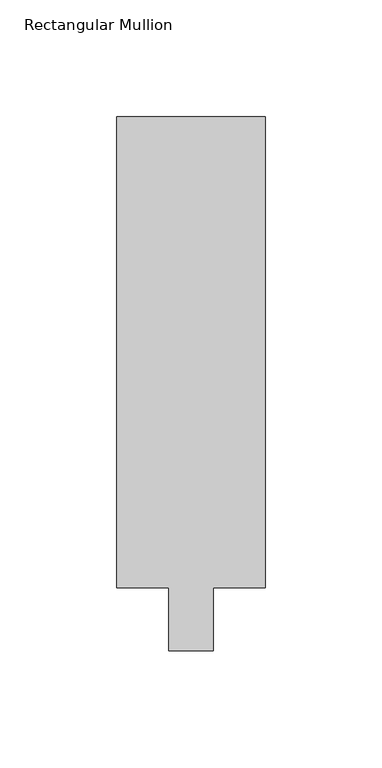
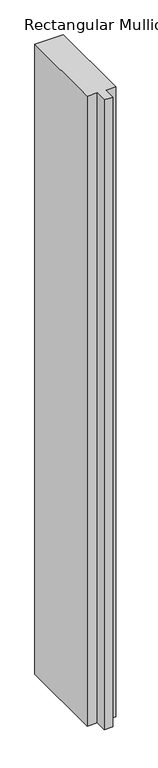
"""IFC4 building model written with IfcOpenShell, lengths in millimetres: member geometry."""

from ifc_helpers import new_model, si_unit, frame, origin, place, context, project, spatial, polyline, outline, extrude, source, transform, mapped, element, save


def rectangular_mullion_39d5cb80(model_context):
    return source(origin(), model_context, "Body", "SweptSolid", [
        extrude(outline(polyline([(0.0, 228.6), (0.0, 26.9875), (-22.225, 26.9875), (-22.225, 0.0), (-41.275, 0.0), (-41.275, 26.9875), (-63.5, 26.9875), (-63.5, 228.6), (0.0, 228.6)])), frame((0.0, 0.0, -1483.2363175), z_axis=(0.0, 0.0, 1.0), x_axis=(1.0, 0.0, 0.0)), (0.0, 0.0, 1.0), 1483.2363175),
    ])


if __name__ == "__main__":
    model = new_model("IFC4")
    model_context = context("Model", 3, world=origin())
    ifc_project = project(units=[si_unit("LENGTHUNIT", "METRE", prefix="MILLI")], contexts=[model_context])
    site = spatial("IfcSite", under=ifc_project)
    building = spatial("IfcBuilding", under=site)
    placement = place(None, origin())
    rectangular_mullion_shape = rectangular_mullion_39d5cb80(model_context)
    element("IfcMember", 1, ObjectType="Rectangular Mullion : 2 1/2\" x 8\" - Capless", at=placement, inside=building, context=model_context, shape_type="MappedRepresentation", body=[
        mapped(rectangular_mullion_shape, transform((0.0, 0.0, 0.0), x_axis=(1.0, 0.0, 0.0), y_axis=(0.0, 1.0, 0.0), z_axis=(0.0, 0.0, 1.0))),
    ])
    save(model, "model.ifc")
